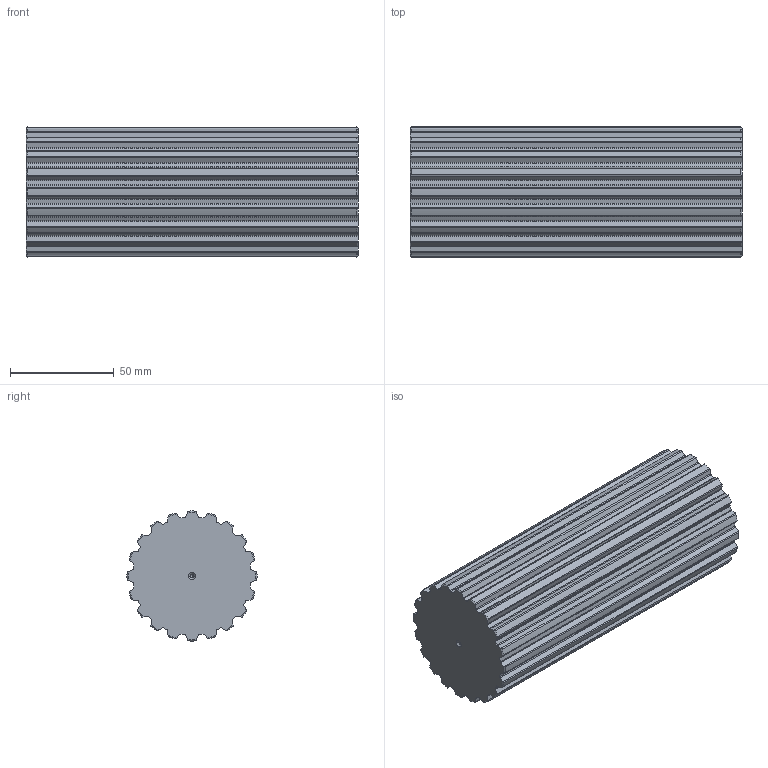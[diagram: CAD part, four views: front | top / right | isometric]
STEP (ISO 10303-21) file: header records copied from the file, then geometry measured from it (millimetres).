
FILE_DESCRIPTION(('STEP AP203'),'1');
FILE_NAME('bart_20.stp','2021-09-10T18:00:26',('TraceParts'),('TraceParts S.A.'),'Spatial InterOp 3D',' ',' ');
FILE_SCHEMA(('CONFIG_CONTROL_DESIGN'));
Length unit declared in the file: millimetre
Products named in the file (1): 1
Bounding box: 160 x 62.66 x 62.65 mm (x, y, z)
Volume: 455155.5 mm3; surface area: 45271 mm2
Topology: 1 solids, 1 shells, 218 faces, 640 edges, 422 vertices
Faces by surface type: cylinder 124, cone 52, plane 42
Entity records: 7636 total; most frequent: CARTESIAN_POINT 1997, ORIENTED_EDGE 1272, DIRECTION 1134, EDGE_CURVE 636, AXIS2_PLACEMENT_3D 439, VERTEX_POINT 422, LINE 256, VECTOR 256
